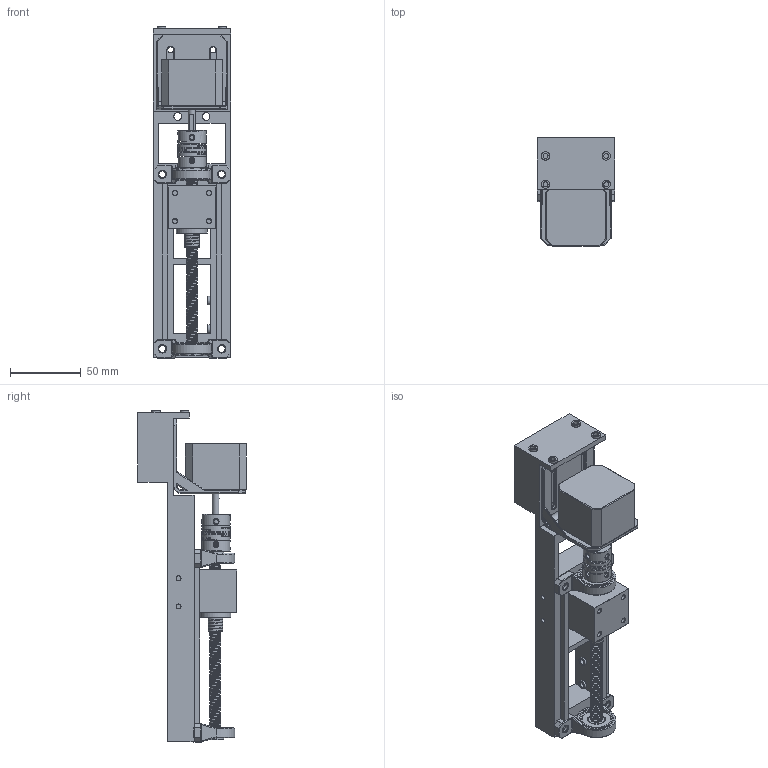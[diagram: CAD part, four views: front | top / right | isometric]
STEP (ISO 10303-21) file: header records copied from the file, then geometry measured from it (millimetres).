
FILE_DESCRIPTION(/* description */ ('STEP AP242 Edition 2','CAx-IF Rec.Pracs.---Representation and Presentation of Product Manufacturing Information (PMI)---4.0---2014-10-13','CAx-IF Rec.Pracs.---3D Tessellated Geometry---0.4---2014-09-14','2;1','CAx-IF Rec.Pracs.---User Defined Attributes---1.5---2016-08-15'),/* implementation_level */ '2;1');
FILE_NAME(/* name */ 'Z-Axis Assembly',/* time_stamp */ '2025-11-29T19:53:35Z',/* author */ (''),/* organization */ (''),/* preprocessor_version */ 'ST-DEVELOPER v20',/* originating_system */ 'ONSHAPE BY PTC INC, 1.207',/* authorisation */ ' ');
FILE_SCHEMA (('AP242_MANAGED_MODEL_BASED_3D_ENGINEERING_MIM_LF { 1 0 10303 442 3 1 4 }'));
Length unit declared in the file: metre
Products named in the file (13): Z-Axis Assembly; T8_NUT_HOUSING; Power Screw Bearing Part - KP08 SUPPORT BEARING-Edited; LeadScrew 8mm x 2mmPitch; Stepper Motor <1>; shaft; stepper_bracket; Part 1; LeadScrew Nut 8mm x 2mmPitch
Assembly tree (16 placements, depth 3):
  Z-Axis Assembly
    T8_NUT_HOUSING
    Power Screw Bearing Part - KP08 SUPPORT BEARING-Edited  x2
    LeadScrew 8mm x 2mmPitch
    Power Screw Bearing Part - KP08 SUPPORT BEARING-Edited  x2
    Power Screw Bearing Part - KP08 SUPPORT BEARING-Edited  x2
    Stepper Motor <1>
      shaft
    stepper_bracket
    Power Screw Bearing Part - KP08 SUPPORT BEARING-Edited  x2
    Part 1
    LeadScrew Nut 8mm x 2mmPitch
    Part 1
Bounding box: 55.09 x 76.72 x 234.8 mm (x, y, z)
Volume: 300151.7 mm3; surface area: 99528 mm2
Topology: 15 solids, 15 shells, 784 faces, 2186 edges, 1422 vertices
Faces by surface type: plane 287, cylinder 258, bspline 88, torus 72, sphere 48, cone 31
Full cylindrical faces by diameter (mm): 1.5 x4, 1.8 x1, 2.075 x4, 2.5 x4, 3.3 x8, 3.5 x16, 4.2 x4, 5 x10, 5.04 x1, 5.293 x1, 5.433 x1, 5.502 x1, 6 x8, 7.5 x4, 8 x2, 8.05 x1, 9.4 x1, 10.2 x2, 10.5 x1, 12 x4, 20 x5, 21 x2, 22 x2, 22.1 x1
Entity records: 29153 total; most frequent: CARTESIAN_POINT 14767, ORIENTED_EDGE 3040, DIRECTION 2708, EDGE_CURVE 1520, VERTEX_POINT 1115, AXIS2_PLACEMENT_3D 1086, EDGE_LOOP 861, FACE_BOUND 861
